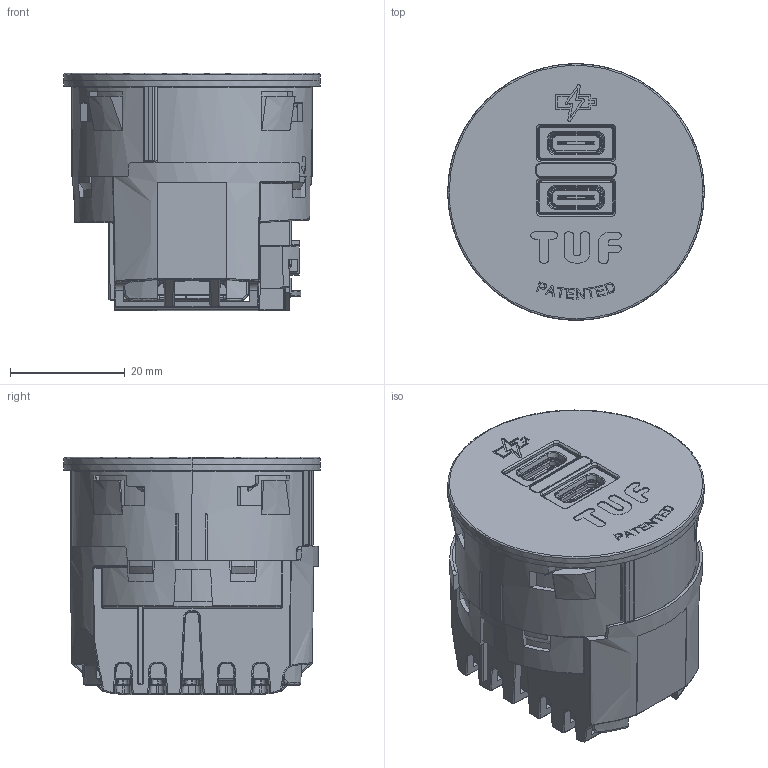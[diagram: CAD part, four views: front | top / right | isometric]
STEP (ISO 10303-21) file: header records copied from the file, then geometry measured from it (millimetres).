
FILE_DESCRIPTION (( 'STEP AP214' ), '1' );
FILE_NAME ('TUF-Fixed_30W CC.STEP', '2024-07-26T13:45:52', ( '' ), ( '' ), 'SwSTEP 2.0', 'SolidWorks 2024', '' );
FILE_SCHEMA (( 'AUTOMOTIVE_DESIGN' ));
Length unit declared in the file: millimetre
Products named in the file (1): TUF-Fixed_30W CC
Bounding box: 44.8 x 44.78 x 41.48 mm (x, y, z)
Surface area: 24530.7 mm2 (no closed solid volume)
Topology: 0 solids, 3 shells, 3836 faces, 10199 edges, 6410 vertices
Faces by surface type: plane 1817, bspline 885, cylinder 855, sphere 142, cone 103, torus 34
Entity records: 144517 total; most frequent: CARTESIAN_POINT 60342, ORIENTED_EDGE 20212, DIRECTION 13274, EDGE_CURVE 10110, VERTEX_POINT 6372, VECTOR 5604, LINE 5604, EDGE_LOOP 3999
